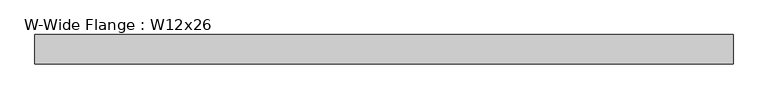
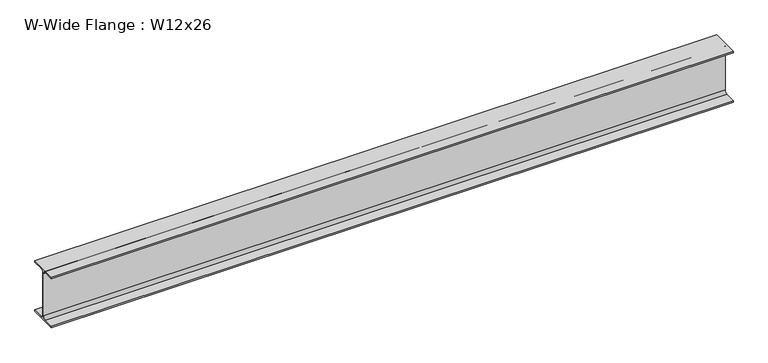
"""IFC4 building model written with IfcOpenShell, lengths in millimetres: beam geometry, W-Wide Flange : W12x26."""

from ifc_helpers import new_model, si_unit, point, frame, frame_2d, origin, place, context, project, spatial, polyline, circle_curve, trimmed, segment, composite_curve, outline, extrude, source, transform, mapped, element, save


def w_wide_flange_w12x26_dadc119a(model_context):
    return source(origin(), model_context, "Body", "SweptSolid", [
        extrude(outline(composite_curve([segment(polyline([(82.423, -145.288), (82.423, -154.94), (-82.423, -154.94), (-82.423, -145.288), (-20.2565, -145.288)]), True, "CONTINUOUS"), segment(trimmed(circle_curve(frame_2d((-20.2565, -127.9525)), 17.3355), [point((-20.2565, -145.288))], [point((-2.921, -127.9525))], True, "CARTESIAN"), True, "CONTINUOUS"), segment(polyline([(-2.921, -127.9525), (-2.921, 127.9525)]), True, "CONTINUOUS"), segment(trimmed(circle_curve(frame_2d((-20.2565, 127.9525)), 17.3355), [point((-2.921, 127.9525))], [point((-20.2565, 145.288))], True, "CARTESIAN"), True, "CONTINUOUS"), segment(polyline([(-20.2565, 145.288), (-82.423, 145.288), (-82.423, 154.94), (82.423, 154.94), (82.423, 145.288), (20.2565, 145.288)]), True, "CONTINUOUS"), segment(trimmed(circle_curve(frame_2d((20.2565, 127.9525)), 17.3355), [point((20.2565, 145.288))], [point((2.921, 127.9525))], True, "CARTESIAN"), True, "CONTINUOUS"), segment(polyline([(2.921, 127.9525), (2.921, -127.9525)]), True, "CONTINUOUS"), segment(trimmed(circle_curve(frame_2d((20.2565, -127.9525)), 17.3355), [point((2.921, -127.9525))], [point((20.2565, -145.288))], True, "CARTESIAN"), True, "CONTINUOUS"), segment(polyline([(20.2565, -145.288), (82.423, -145.288)]), True, "CONTINUOUS")], self_intersect=False)), frame((-1917.8322248, 0.0, 0.0), z_axis=(1.0, 0.0, 0.0), x_axis=(0.0, 1.0, 0.0)), (0.0, 0.0, 1.0), 3930.65),
    ])


if __name__ == "__main__":
    model = new_model("IFC4")
    model_context = context("Model", 3, world=origin())
    ifc_project = project(units=[si_unit("LENGTHUNIT", "METRE", prefix="MILLI")], contexts=[model_context])
    site = spatial("IfcSite", under=ifc_project)
    building = spatial("IfcBuilding", under=site)
    placement = place(None, origin())
    w_wide_flange_w12x26_shape = w_wide_flange_w12x26_dadc119a(model_context)
    element("IfcBeam", 1, ObjectType="W-Wide Flange : W12x26", at=placement, inside=building, context=model_context, shape_type="MappedRepresentation", body=[
        mapped(w_wide_flange_w12x26_shape, transform((0.0, 0.0, 0.0), x_axis=(1.0, 0.0, 0.0), y_axis=(0.0, 1.0, 0.0), z_axis=(0.0, 0.0, 1.0))),
    ])
    save(model, "model.ifc")
